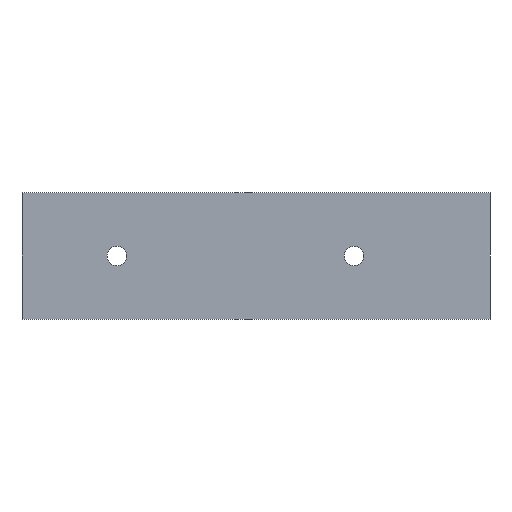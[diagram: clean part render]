
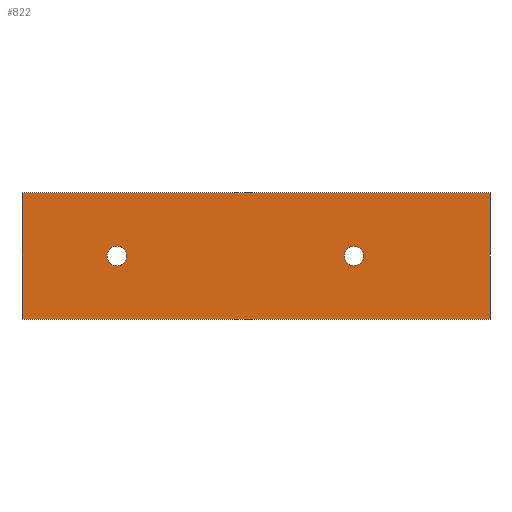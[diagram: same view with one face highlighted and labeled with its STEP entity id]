
A CAD part, front view. The second image highlights one B-rep face of the part: STEP entity #822.
In plain terms, the highlighted planar face has unit normal (0, -1, 0).
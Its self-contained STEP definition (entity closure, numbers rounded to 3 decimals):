
#30=FACE_BOUND('',#159,.T.);
#31=FACE_BOUND('',#160,.T.);
#42=CIRCLE('',#956,3.1);
#45=CIRCLE('',#960,3.1);
#110=FACE_OUTER_BOUND('',#158,.T.);
#158=EDGE_LOOP('',(#628,#629,#630,#631));
#159=EDGE_LOOP('',(#632));
#160=EDGE_LOOP('',(#633));
#232=LINE('',#1352,#318);
#233=LINE('',#1354,#319);
#234=LINE('',#1356,#320);
#235=LINE('',#1357,#321);
#318=VECTOR('',#1110,10.);
#319=VECTOR('',#1111,10.);
#320=VECTOR('',#1112,10.);
#321=VECTOR('',#1113,10.);
#392=VERTEX_POINT('',#1338);
#395=VERTEX_POINT('',#1346);
#396=VERTEX_POINT('',#1350);
#397=VERTEX_POINT('',#1351);
#398=VERTEX_POINT('',#1353);
#399=VERTEX_POINT('',#1355);
#478=EDGE_CURVE('',#392,#392,#42,.T.);
#482=EDGE_CURVE('',#395,#395,#45,.T.);
#483=EDGE_CURVE('',#396,#397,#232,.T.);
#484=EDGE_CURVE('',#397,#398,#233,.T.);
#485=EDGE_CURVE('',#398,#399,#234,.T.);
#486=EDGE_CURVE('',#399,#396,#235,.T.);
#628=ORIENTED_EDGE('',*,*,#483,.T.);
#629=ORIENTED_EDGE('',*,*,#484,.T.);
#630=ORIENTED_EDGE('',*,*,#485,.T.);
#631=ORIENTED_EDGE('',*,*,#486,.T.);
#632=ORIENTED_EDGE('',*,*,#478,.T.);
#633=ORIENTED_EDGE('',*,*,#482,.T.);
#780=PLANE('',#961);
#822=ADVANCED_FACE('',(#110,#30,#31),#780,.T.);
#956=AXIS2_PLACEMENT_3D('',#1340,#1097,#1098);
#960=AXIS2_PLACEMENT_3D('',#1348,#1106,#1107);
#961=AXIS2_PLACEMENT_3D('',#1349,#1108,#1109);
#1097=DIRECTION('center_axis',(0.,1.,0.));
#1098=DIRECTION('ref_axis',(1.,0.,0.));
#1106=DIRECTION('center_axis',(0.,1.,0.));
#1107=DIRECTION('ref_axis',(1.,0.,0.));
#1108=DIRECTION('center_axis',(0.,-1.,0.));
#1109=DIRECTION('ref_axis',(0.,0.,-1.));
#1110=DIRECTION('',(0.,0.,1.));
#1111=DIRECTION('',(-1.,0.,0.));
#1112=DIRECTION('',(0.,0.,-1.));
#1113=DIRECTION('',(1.,0.,0.));
#1338=CARTESIAN_POINT('',(-47.1,-4.,0.));
#1340=CARTESIAN_POINT('Origin',(-44.,-4.,0.));
#1346=CARTESIAN_POINT('',(27.9,-4.,0.));
#1348=CARTESIAN_POINT('Origin',(31.,-4.,0.));
#1349=CARTESIAN_POINT('Origin',(0.,-4.,0.));
#1350=CARTESIAN_POINT('',(74.,-4.,-20.));
#1351=CARTESIAN_POINT('',(74.,-4.,20.));
#1352=CARTESIAN_POINT('',(74.,-4.,20.));
#1353=CARTESIAN_POINT('',(-74.,-4.,20.));
#1354=CARTESIAN_POINT('',(-74.,-4.,20.));
#1355=CARTESIAN_POINT('',(-74.,-4.,-20.));
#1356=CARTESIAN_POINT('',(-74.,-4.,-20.));
#1357=CARTESIAN_POINT('',(74.,-4.,-20.));
